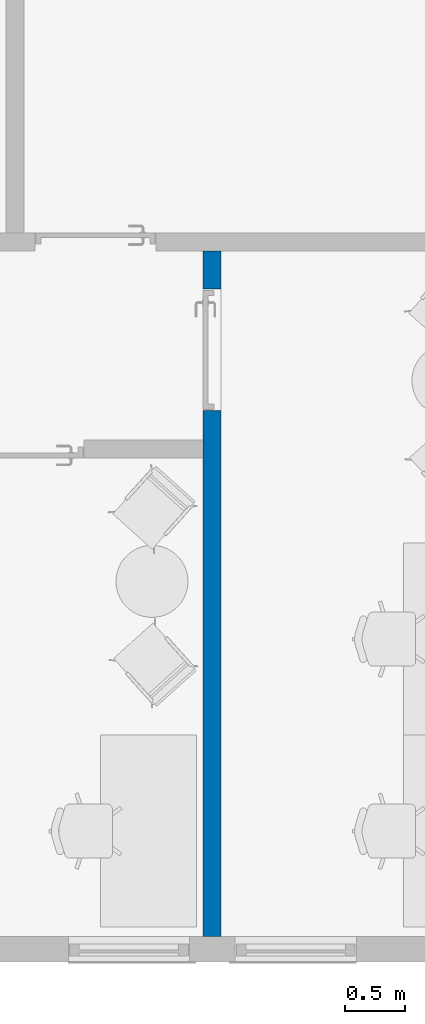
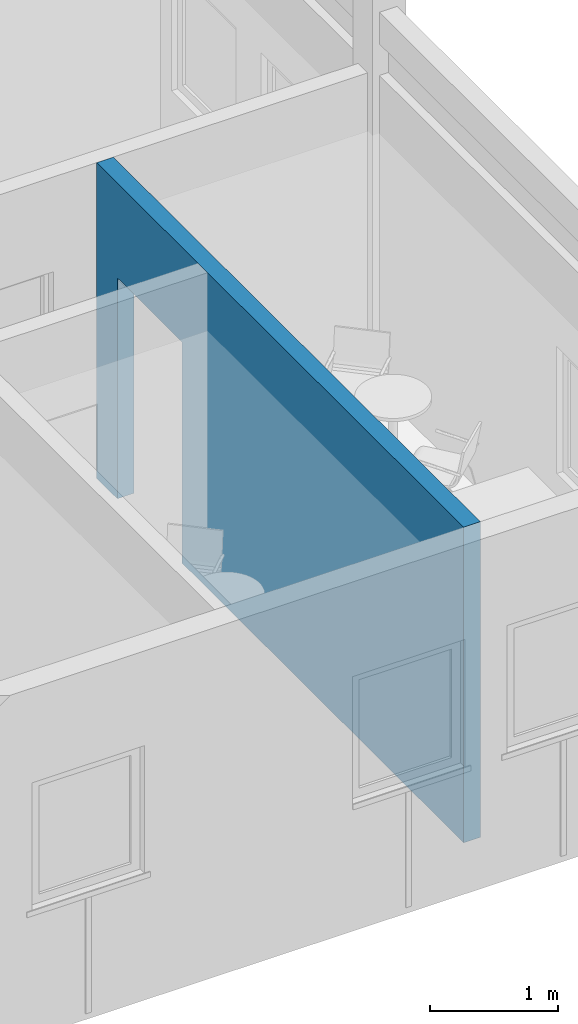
# One storey, part 16 of 58: 1 wall, 1 opening.
"""IFC2X3 building model written with IfcOpenShell, lengths in millimetres."""

from ifc_helpers import new_model, entity, si_unit, converted_unit, derived_unit, direction, frame, frame_2d, origin, place, context, subcontext, project, spatial, rectangle, extrude, material, layer, layer_set, layer_usage, type_object, element, save


model = new_model("IFC2X3")

# Units and contexts
model_context = context("Model", 3, precision=0.01, world=origin(), true_north=direction((0.7716245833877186, 0.6360782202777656)))
body_context = subcontext(model_context, "Body", "Model", "MODEL_VIEW")
ifc_project = project(units=[si_unit("LENGTHUNIT", "METRE", prefix="MILLI"), si_unit("AREAUNIT", "SQUARE_METRE"), converted_unit("PLANEANGLEUNIT", "DEGREE", entity("IfcPlaneAngleMeasure", 0.017453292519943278), si_unit("PLANEANGLEUNIT", "RADIAN"), dimensions=[0, 0, 0, 0, 0, 0, 0]), derived_unit("THERMALTRANSMITTANCEUNIT", [(si_unit("MASSUNIT", "GRAM", prefix="KILO"), 1), (si_unit("THERMODYNAMICTEMPERATUREUNIT", "KELVIN"), -1), (si_unit("TIMEUNIT", "SECOND"), -3)])], contexts=[model_context])

# Site, building, storey
site_placement = place(None, origin())
site = spatial("IfcSite", under=ifc_project, at=site_placement, Name="Default", CompositionType="ELEMENT")
building_placement = place(site_placement, origin())
building = spatial("IfcBuilding", under=site, at=building_placement, CompositionType="ELEMENT")
storey_placement = place(building_placement, frame((0.0, 0.0, 31140.0)))
storey = spatial("IfcBuildingStorey", under=building, at=storey_placement, Name="PLAN U1", CompositionType="ELEMENT", Elevation=31140.000000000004)

# Wall, opening
ifc_material = material(Name="Eksist. vegg")
ifc_layer = layer(ifc_material, 150.0)
ifc_layer_set = layer_set([ifc_layer], Name="Basic Wall:240 Eksist. Innervegg 150 mm")
ifc_layer_usage = layer_usage(ifc_layer_set, "AXIS2", "NEGATIVE", 75.0)
wall_type = type_object("IfcWallType", Name="Basic Wall:240 Eksist. Innervegg 150 mm", PredefinedType="STANDARD", material=ifc_layer_set)
wall_placement = place(storey_placement, frame((275407.924446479, 53527.255550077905, 0.0), z_axis=(0.0, 0.0, 1.0), x_axis=(0.0, 1.0, 0.0)))
wall = element("IfcWallStandardCase", 1, at=wall_placement, inside=storey, type_object=wall_type, material=ifc_layer_usage, Name="Basic Wall:240 Eksist. Innervegg 150 mm", ObjectType="Basic Wall:240 Eksist. Innervegg 150 mm", context=body_context, shape_type="SweptSolid", body=[
    extrude(rectangle(XDim=5712.99999999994, YDim=150.00000000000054, at=frame_2d((2856.49999999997, 0.0), x_axis=(1.0, 0.0))), origin(), (0.0, 0.0, 1.0), 2999.9999999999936),
])
opening_placement = place(wall_placement, frame((4383.0, -75.0, 0.0)))
element("IfcOpeningElement", 2, at=opening_placement, cuts=wall, Name="Enfløyet:2441 Innvendig 10x21M:1", ObjectType="Opening", context=body_context, shape_type="SweptSolid", body=[
    extrude(rectangle(XDim=2100.0, YDim=1009.9999999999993, at=frame_2d((1049.9999999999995, 504.9999999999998), x_axis=(1.0, 0.0))), frame((0.0, 0.0, 0.0), z_axis=(0.0, 1.0, 0.0), x_axis=(0.0, 0.0, 1.0)), (0.0, 0.0, 1.0), 150.0),
])

save(model, "model.ifc")
